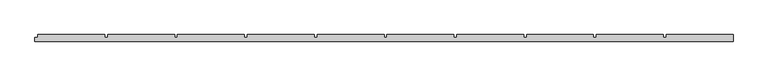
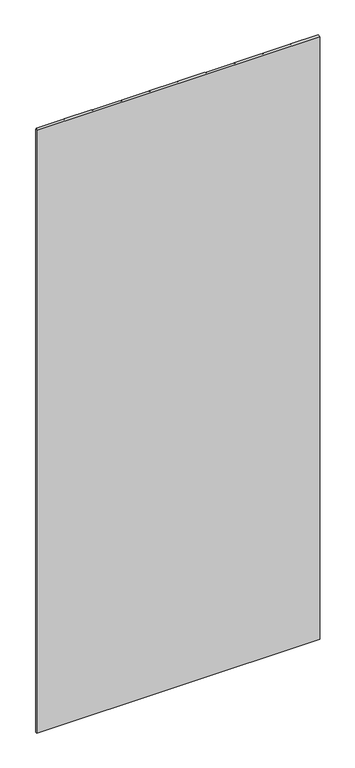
"""IFC4 building model written with IfcOpenShell, lengths in millimetres: proxy geometry, 120 12mmSC."""

from ifc_helpers import new_model, si_unit, origin, origin_with_axes, place, context, project, spatial, polyline, outline, extrude, source, transform, mapped, element, save


def generic_models_492d5cac(model_context):
    return source(origin(), model_context, "Body", "SweptSolid", [
        extrude(outline(polyline([(6185.0, -17106.6179865), (6300.0, -17106.6179865), (6300.0, -17118.6179865), (5100.0, -17118.6179865), (5100.0, -17111.6179865), (5105.0, -17111.6179865), (5105.0, -17106.6179865), (5220.0, -17106.6179865), (5220.0, -17111.6179865), (5225.0, -17111.6179865), (5225.0, -17106.6179865), (5340.0, -17106.6179865), (5340.0, -17111.6179865), (5345.0, -17111.6179865), (5345.0, -17106.6179865), (5460.0, -17106.6179865), (5460.0, -17111.6179865), (5465.0, -17111.6179865), (5465.0, -17106.6179865), (5580.0, -17106.6179865), (5580.0, -17111.6179865), (5585.0, -17111.6179865), (5585.0, -17106.6179865), (5700.0, -17106.6179865), (5700.0, -17111.6179865), (5705.0, -17111.6179865), (5705.0, -17106.6179865), (5820.0, -17106.6179865), (5820.0, -17111.6179865), (5825.0, -17111.6179865), (5825.0, -17106.6179865), (5940.0, -17106.6179865), (5940.0, -17111.6179865), (5945.0, -17111.6179865), (5945.0, -17106.6179865), (6060.0, -17106.6179865), (6060.0, -17111.6179865), (6065.0, -17111.6179865), (6065.0, -17106.6179865), (6180.0, -17106.6179865), (6180.0, -17111.6179865), (6185.0, -17111.6179865), (6185.0, -17106.6179865)])), origin_with_axes(), (0.0, 0.0, 1.0), 2700.0),
    ])


if __name__ == "__main__":
    model = new_model("IFC4")
    model_context = context("Model", 3, world=origin())
    ifc_project = project(units=[si_unit("LENGTHUNIT", "METRE", prefix="MILLI")], contexts=[model_context])
    site = spatial("IfcSite", under=ifc_project)
    building = spatial("IfcBuilding", under=site)
    placement = place(None, origin())
    generic_models_shape = generic_models_492d5cac(model_context)
    element("IfcBuildingElementProxy", 1, Name="120 12mmSC", ObjectType="120 12mmSC", at=placement, inside=building, context=model_context, shape_type="MappedRepresentation", body=[
        mapped(generic_models_shape, transform((0.0, 0.0, 0.0), x_axis=(1.0, 0.0, 0.0), y_axis=(0.0, 1.0, 0.0), z_axis=(0.0, 0.0, 1.0))),
    ])
    save(model, "model.ifc")
